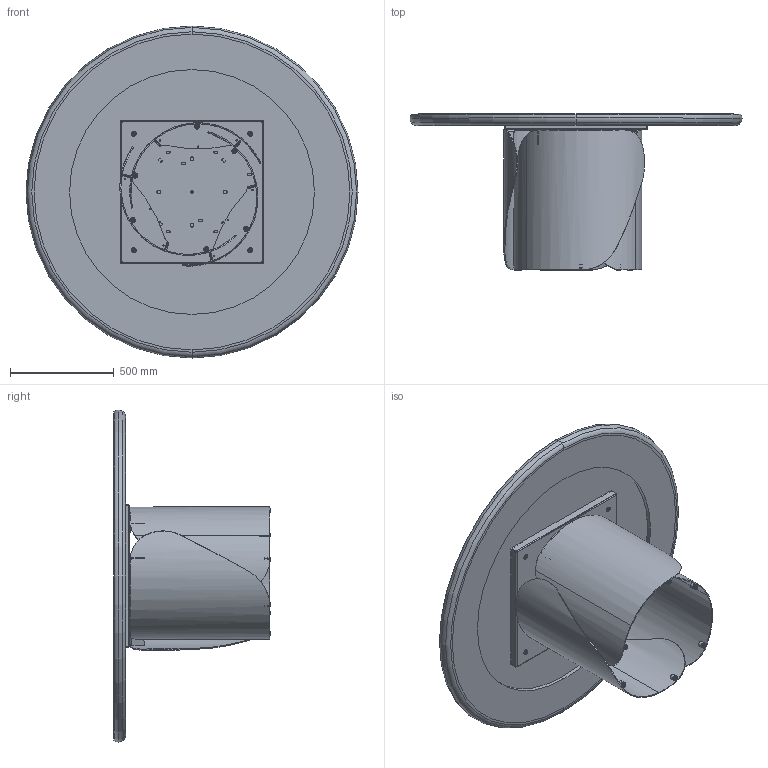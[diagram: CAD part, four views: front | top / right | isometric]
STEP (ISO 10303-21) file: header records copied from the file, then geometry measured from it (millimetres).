
FILE_DESCRIPTION (( 'STEP AP203' ), '1' );
FILE_NAME ('ON07K_Onda_d.160_King.STEP', '2024-07-31T14:20:00', ( '' ), ( '' ), 'SwSTEP 2.0', 'SolidWorks 2022', '' );
FILE_SCHEMA (( 'CONFIG_CONTROL_DESIGN' ));
Length unit declared in the file: millimetre
Products named in the file (16): OND000000_01-00-PIASTRA SUPERIORE BASE ONDA; TTAV0801 TELAIO UNIVERSALE TONDO-PIASTRINA; ASSIEME PIANO KING_PIANO+CERAMICA DIAM160; COLLO BASE ONDA SINGOLA CON FERRAMENTA; OND000000_02-00-CILINDRO DI FISSAGGIO Ø25X17 M8; OND000000-03-ONDA BASE GREZZA; rondella M8_8X24; M8xXXmm_M8x55mm; ON07K_Onda_d.160_King; OND000000_03-00-LAMIERA CURVATA PRINCIPALE_OND00000X-00-ONDA BASE GREZZA PROTOTIPO; W91-01-PIANO KING BORDO Ø160 SAGOMATO LACCATO; PIEDINO PER ONDA; TTAV0801-02-TELAIO UNIVERSALE TONDO; COLLO TELAIO UNIVERSALE TTAV0801 CON FERRAMENTA_MTG TOP LEGNO-MARMO-KING; TTAV0801-02-TELAIO UNIVERSALE TONDO-VASSOIO; K91-00-PIANO SOLO CERAMICA D.156.7cm X PIANO C BORDO
Assembly tree (28 placements, depth 4):
  ON07K_Onda_d.160_King
    COLLO TELAIO UNIVERSALE TTAV0801 CON FERRAMENTA_MTG TOP LEGNO-MARMO-KING
      TTAV0801-02-TELAIO UNIVERSALE TONDO
        TTAV0801-02-TELAIO UNIVERSALE TONDO-VASSOIO
        TTAV0801 TELAIO UNIVERSALE TONDO-PIASTRINA  x4
      rondella M8_8X24  x4
      M8xXXmm_M8x55mm  x4
    COLLO BASE ONDA SINGOLA CON FERRAMENTA  x3
      OND000000-03-ONDA BASE GREZZA
        OND000000_03-00-LAMIERA CURVATA PRINCIPALE_OND00000X-00-ONDA BASE GREZZA PROTOTIPO
        OND000000_01-00-PIASTRA SUPERIORE BASE ONDA
        OND000000_02-00-CILINDRO DI FISSAGGIO Ø25X17 M8  x2
      PIEDINO PER ONDA
    ASSIEME PIANO KING_PIANO+CERAMICA DIAM160
      W91-01-PIANO KING BORDO Ø160 SAGOMATO LACCATO
      K91-00-PIANO SOLO CERAMICA D.156.7cm X PIANO C BORDO
Bounding box: 1600 x 752 x 1600 mm (x, y, z)
Volume: 98988632.1 mm3; surface area: 12812842 mm2
Topology: 39 solids, 39 shells, 1155 faces, 2845 edges, 1810 vertices
Faces by surface type: plane 486, cylinder 475, torus 82, bspline 60, cone 52
Entity records: 19437 total; most frequent: CARTESIAN_POINT 4592, DIRECTION 2741, ORIENTED_EDGE 2624, EDGE_CURVE 1312, AXIS2_PLACEMENT_3D 1003, VERTEX_POINT 844, VECTOR 735, LINE 735
